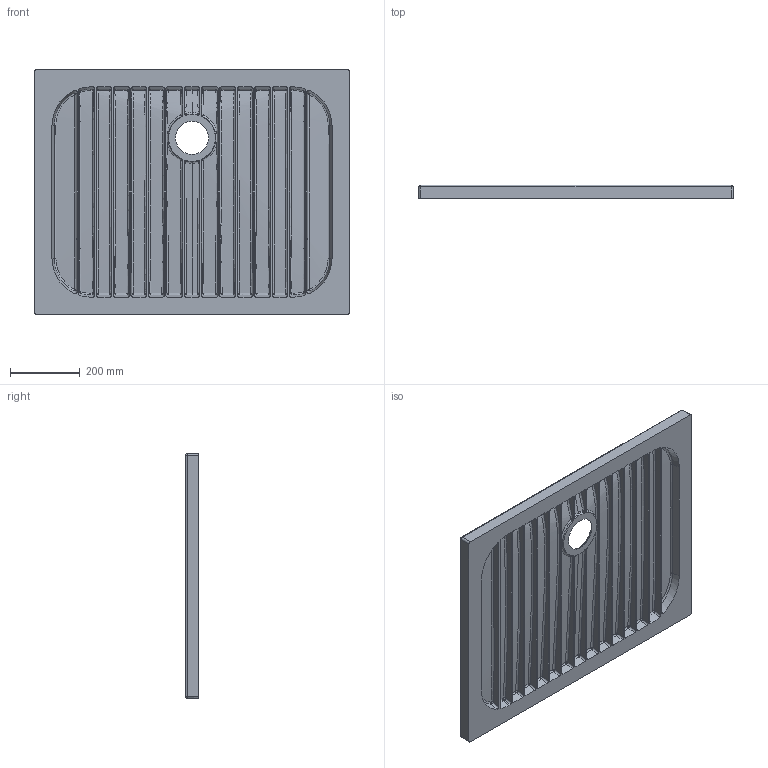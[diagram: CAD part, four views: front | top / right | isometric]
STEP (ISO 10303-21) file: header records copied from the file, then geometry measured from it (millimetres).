
FILE_DESCRIPTION (( 'STEP AP203' ), '1' );
FILE_NAME ('RAPID PD09007040.STEP', '2022-01-19T08:10:29', ( '' ), ( '' ), 'SwSTEP 2.0', 'SolidWorks 2021', '' );
FILE_SCHEMA (( 'CONFIG_CONTROL_DESIGN' ));
Length unit declared in the file: millimetre
Products named in the file (1): RAPID PD09007040
Bounding box: 901.33 x 38 x 701.33 mm (x, y, z)
Volume: 12766356.3 mm3; surface area: 1645861.5 mm2
Topology: 1 solids, 1 shells, 331 faces, 740 edges, 423 vertices
Faces by surface type: bspline 126, sphere 68, plane 66, cylinder 56, cone 13, torus 2
Entity records: 34367 total; most frequent: CARTESIAN_POINT 28024, ORIENTED_EDGE 1466, DIRECTION 1070, EDGE_CURVE 733, AXIS2_PLACEMENT_3D 443, VERTEX_POINT 423, EDGE_LOOP 352, FACE_OUTER_BOUND 333
